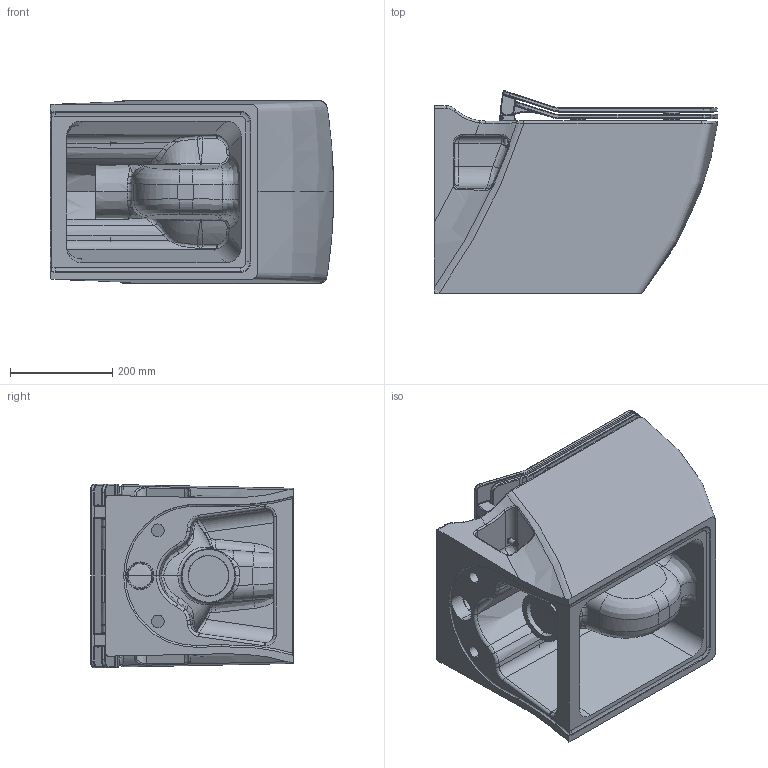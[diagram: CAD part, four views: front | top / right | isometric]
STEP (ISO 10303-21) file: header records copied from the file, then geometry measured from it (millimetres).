
FILE_DESCRIPTION (( 'STEP AP203' ), '1' );
FILE_NAME ('TP324.STEP', '2022-04-25T06:51:09', ( '' ), ( '' ), 'SwSTEP 2.0', 'SolidWorks 2021', '' );
FILE_SCHEMA (( 'CONFIG_CONTROL_DESIGN' ));
Length unit declared in the file: millimetre
Products named in the file (1): TP324
Bounding box: 553.19 x 395.74 x 358 mm (x, y, z)
Surface area: 2057050.2 mm2 (no closed solid volume)
Topology: 0 solids, 35 shells, 2458 faces, 6280 edges, 3860 vertices
Faces by surface type: cylinder 1195, bspline 491, plane 480, torus 152, cone 82, sphere 58
Entity records: 166655 total; most frequent: CARTESIAN_POINT 114954, ORIENTED_EDGE 12384, DIRECTION 9201, EDGE_CURVE 6211, VERTEX_POINT 3860, AXIS2_PLACEMENT_3D 3457, EDGE_LOOP 2547, FACE_OUTER_BOUND 2458
